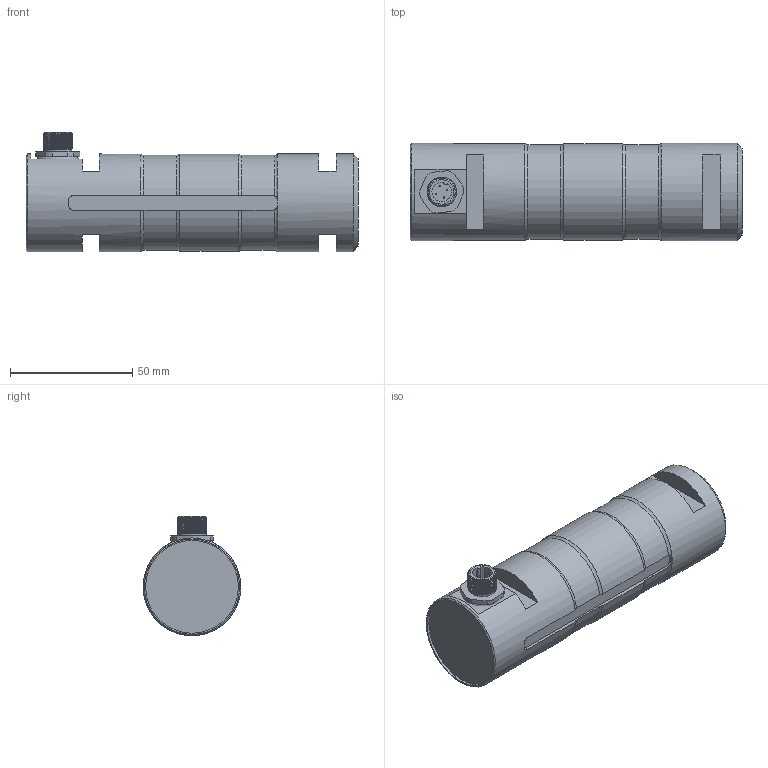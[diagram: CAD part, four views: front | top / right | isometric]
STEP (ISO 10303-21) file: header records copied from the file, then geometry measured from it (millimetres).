
FILE_DESCRIPTION(/* description */ ('Alibre Inc.'),/* implementation_level */ '2;1');
FILE_NAME(/* name */ 'export0',/* time_stamp */ '2015-04-27T11:21:25+02:00',/* author */ (''),/* organization */ (''),/* preprocessor_version */ 'ST-DEVELOPER v14',/* originating_system */ 'Alibre',/* authorisation */ '');
FILE_SCHEMA (('CONFIG_CONTROL_DESIGN'));
Length unit declared in the file: centimetre
Products named in the file (6): ID_1; ID_2; ID_3; ID_4
Bounding box: 136 x 40 x 48.86 mm (x, y, z)
Volume: 161177.2 mm3; surface area: 24979 mm2
Topology: 8 solids, 8 shells, 159 faces, 360 edges, 225 vertices
Faces by surface type: plane 69, cylinder 52, bspline 23, torus 9, cone 6
Full cylindrical faces by diameter (mm): 0.5 x8, 8 x2, 10 x4, 11.5 x1, 13 x1, 14.376 x1, 38 x1, 40 x2
Entity records: 14815 total; most frequent: CARTESIAN_POINT 11373, ORIENTED_EDGE 642, DIRECTION 421, EDGE_CURVE 316, VERTEX_POINT 211, FACE_BOUND 204, EDGE_LOOP 203, AXIS2_PLACEMENT_3D 188
